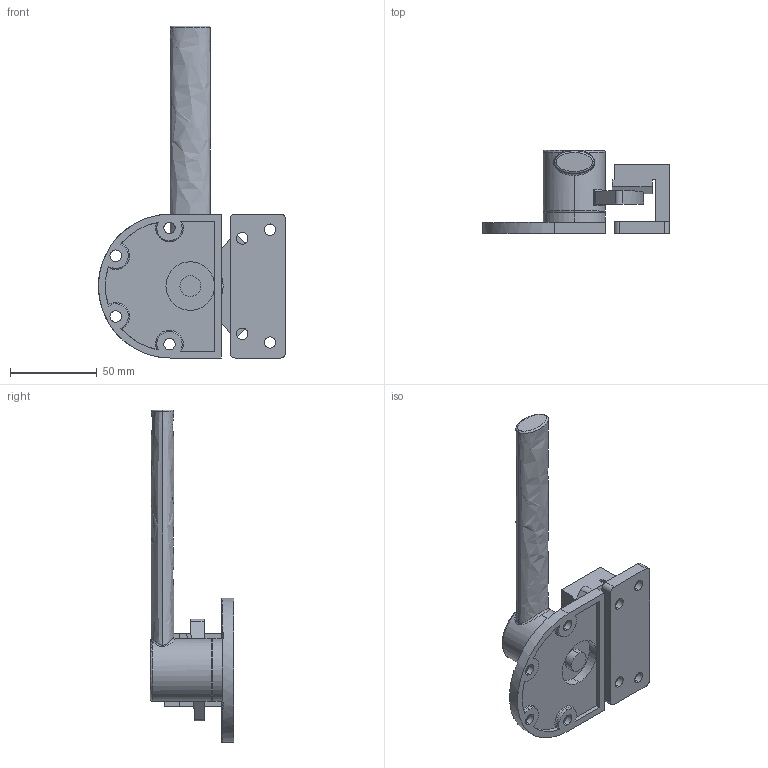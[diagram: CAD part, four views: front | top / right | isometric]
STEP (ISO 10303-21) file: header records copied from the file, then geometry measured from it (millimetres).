
FILE_DESCRIPTION (( 'STEP AP203' ), '1' );
FILE_NAME ('J09-1230L.STEP', '2024-11-04T08:44:12', ( '' ), ( '' ), 'SwSTEP 2.0', 'SolidWorks 2021', '' );
FILE_SCHEMA (( 'CONFIG_CONTROL_DESIGN' ));
Length unit declared in the file: millimetre
Products named in the file (5): J09-1230L-1底座; J09-底座螺絲; J09-1230L; J09-1230L-扣; J09-1230-L-1-握把
Assembly tree (4 placements, depth 2):
  J09-1230L
    J09-1230L-1底座
    J09-1230-L-1-握把
    J09-1230L-扣
    J09-底座螺絲
Bounding box: 107.98 x 48 x 191.5 mm (x, y, z)
Volume: 144144.7 mm3; surface area: 45422.6 mm2
Topology: 4 solids, 4 shells, 126 faces, 323 edges, 205 vertices
Faces by surface type: cylinder 51, plane 37, cone 24, bspline 10, torus 4
Entity records: 5465 total; most frequent: CARTESIAN_POINT 1870, DIRECTION 662, ORIENTED_EDGE 642, EDGE_CURVE 321, AXIS2_PLACEMENT_3D 260, VERTEX_POINT 205, EDGE_LOOP 146, VECTOR 142
